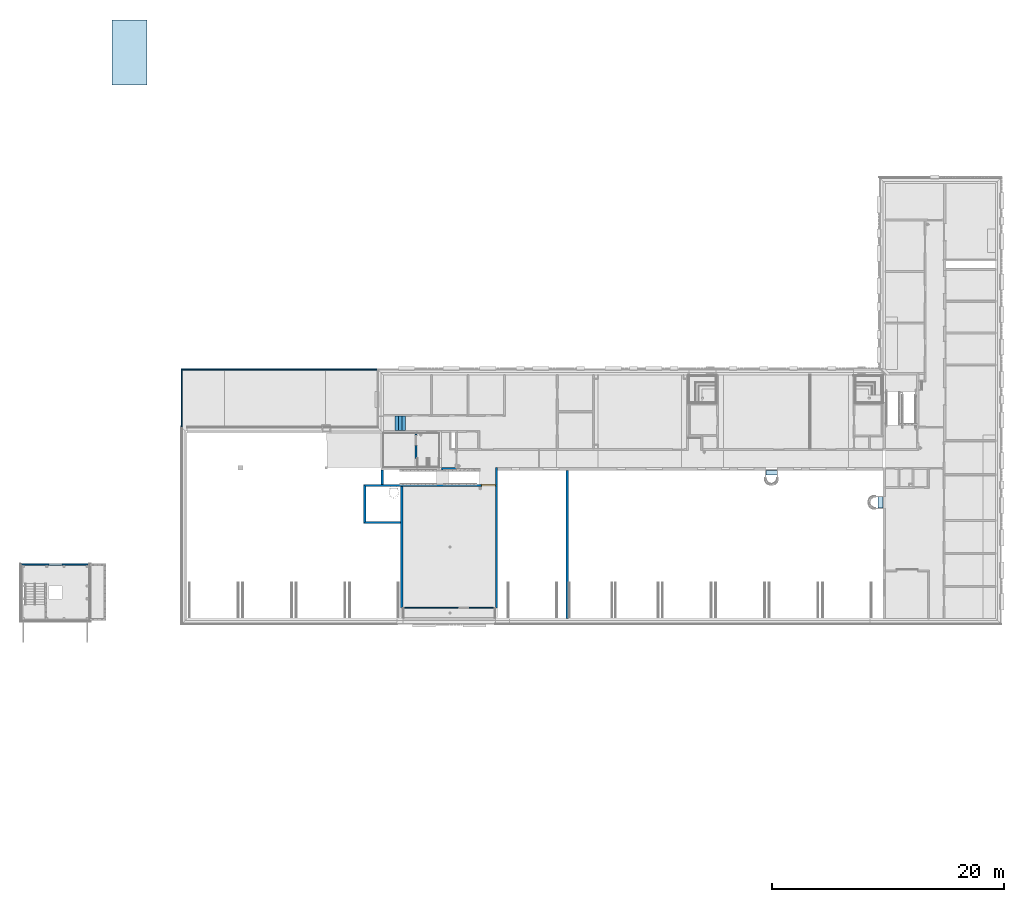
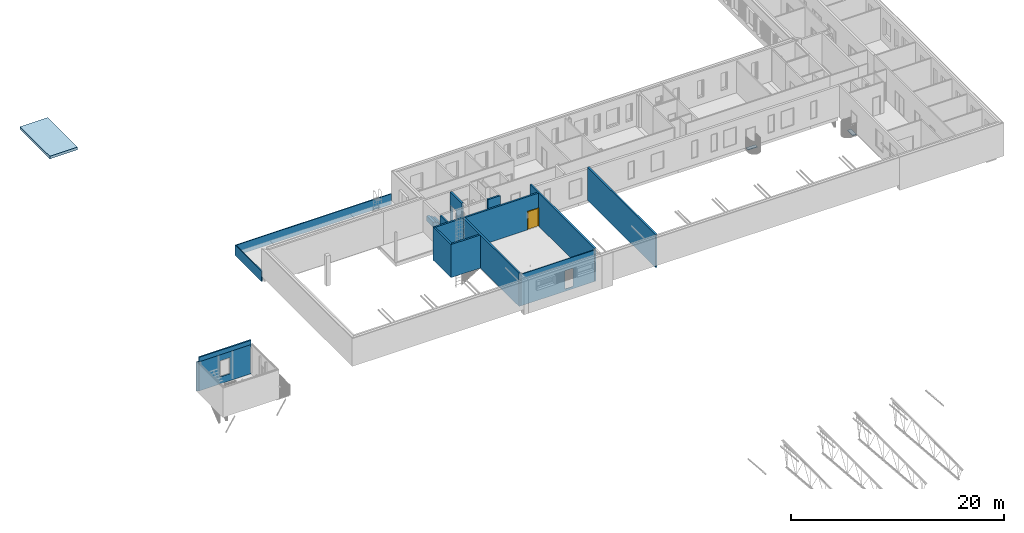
# One storey, part 3 of 100: 14 walls, 2 plates, 1 door, 1 member, 1 slab, 5 openings, 1 element without a shape of its own.
"""IFC2X3 building model written with IfcOpenShell, lengths in millimetres."""

from ifc_helpers import new_model, entity, si_unit, converted_unit, derived_unit, money_unit, direction, frame, origin_with_axes, origin_2d_with_axis, place, context, subcontext, project, spatial, polyline, rectangle, outline, extrude, faceted_brep, source, transform, mapped, material, layer, layer_set, layer_usage, type_object, element, fill, aggregate, save


model = new_model("IFC2X3")

# Units and contexts
model_context = context("Model", 3, precision=0.01, world=origin_with_axes(), true_north=direction((0.0, 1.0)))
body_context = subcontext(model_context, "Body", "Model", "MODEL_VIEW")
ifc_project = project(units=[si_unit("LENGTHUNIT", "METRE", prefix="MILLI"), si_unit("AREAUNIT", "SQUARE_METRE"), si_unit("VOLUMEUNIT", "CUBIC_METRE"), converted_unit("PLANEANGLEUNIT", "DEGREE", entity("IfcPlaneAngleMeasure", 0.0174532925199), si_unit("PLANEANGLEUNIT", "RADIAN"), dimensions=[0, 0, 0, 0, 0, 0, 0]), si_unit("SOLIDANGLEUNIT", "STERADIAN"), money_unit("EUR"), converted_unit("TIMEUNIT", "Year", entity("IfcTimeMeasure", 31556926.0), si_unit("TIMEUNIT", "SECOND"), dimensions=[0, 0, 1, 0, 0, 0, 0]), si_unit("MASSUNIT", "GRAM", prefix="KILO"), si_unit("THERMODYNAMICTEMPERATUREUNIT", "DEGREE_CELSIUS"), si_unit("LUMINOUSINTENSITYUNIT", "LUMEN"), si_unit("ENERGYUNIT", "JOULE", prefix="MEGA"), derived_unit("THERMALCONDUCTANCEUNIT", [(si_unit("POWERUNIT", "WATT"), 1), (si_unit("LENGTHUNIT", "METRE"), -1), (si_unit("THERMODYNAMICTEMPERATUREUNIT", "KELVIN"), -1)]), derived_unit("SPECIFICHEATCAPACITYUNIT", [(si_unit("ENERGYUNIT", "JOULE"), 1), (si_unit("MASSUNIT", "GRAM", prefix="KILO"), -1), (si_unit("THERMODYNAMICTEMPERATUREUNIT", "KELVIN"), -1)]), derived_unit("MASSDENSITYUNIT", [(si_unit("MASSUNIT", "GRAM", prefix="KILO"), 1), (si_unit("VOLUMEUNIT", "CUBIC_METRE"), -1)])], contexts=[model_context])

# Site, building, storey
site_placement = place(None, origin_with_axes())
site = spatial("IfcSite", under=ifc_project, at=site_placement, Name="Politse- ja Piirivalveameti ning Päästeameti ühishoone", CompositionType="ELEMENT")
building_placement = place(site_placement, origin_with_axes())
building = spatial("IfcBuilding", under=site, at=building_placement, Name="Politse- ja Piirivalveameti ning Päästeameti ühishoone", CompositionType="ELEMENT")
storey_placement = place(building_placement, frame((0.0, 0.0, 3800.0), z_axis=(0.0, 0.0, 1.0), x_axis=(1.0, 0.0, 0.0)))
storey = spatial("IfcBuildingStorey", under=building, at=storey_placement, Name="Teine korrus", CompositionType="ELEMENT", Elevation=3800.0)

# Stair, member
stair_placement = place(storey_placement, frame((18809.4885406, 16189.8176113, 0.0), z_axis=(0.0, 0.0, 1.0), x_axis=(-1.0, 0.0, 0.0)))
stair = element("IfcStair", 1, at=stair_placement, inside=storey, Name="TREPP 5", ShapeType="NOTDEFINED")
ifc_material_1 = material(Name="KON-04_Betoon - Konstuktsioon")
member_type = type_object("IfcMemberType", Name="IfcMember", PredefinedType="USERDEFINED")
member_placement = place(stair_placement, origin_with_axes())
member = element("IfcMember", 2, at=member_placement, type_object=member_type, material=ifc_material_1, Name="TREPP 04", ObjectType="Stair Structure", context=body_context, shape_type="Brep", body=[
    faceted_brep([(600.0, 0.0, 360.0), (300.0, 0.0, 360.0), (300.0, -1250.2068331, 360.0), (600.0, -1250.2068331, 360.0), (600.0, 0.0, 540.0), (900.0, 0.0, 540.0), (900.0, 0.0, 0.0), (0.0, 0.0, 0.0), (0.0, 0.0, 180.0), (300.0, 0.0, 180.0), (300.0, -1250.2068331, 180.0), (0.0, -1250.2068331, 0.0), (900.0, -1250.2068331, 0.0), (900.0, -1250.2068331, 540.0), (600.0, -1250.2068331, 540.0), (0.0, -1250.2068331, 180.0)], [[[0, 1, 2, 3]], [[0, 4, 5, 6, 7, 8, 9, 1]], [[10, 2, 1, 9]], [[11, 12, 13, 14, 3, 2, 10, 15]], [[3, 14, 4, 0]], [[13, 5, 4, 14]], [[5, 13, 12, 6]], [[12, 11, 7, 6]], [[15, 8, 7, 11]], [[9, 8, 15, 10]]]),
])
aggregate(stair, [member])

# Slab
ifc_layer_1 = layer(ifc_material_1, 300.0, ventilated="UNKNOWN")
ifc_layer_set_1 = layer_set([ifc_layer_1], Name="KL-61_Katuslagi lõhkeainehoidla")
ifc_layer_usage_1 = layer_usage(ifc_layer_set_1, "AXIS3", "NEGATIVE", 300.0)
slab_type = type_object("IfcSlabType", Name="KL-61_Katuslagi lõhkeainehoidla 300", PredefinedType="ROOF")
slab_placement = place(storey_placement, frame((-6464.49139249, 51578.0648668, -1700.0), z_axis=(0.0, 0.0, 1.0), x_axis=(1.0, 0.0, 0.0)))
element("IfcSlab", 3, at=slab_placement, inside=storey, type_object=slab_type, material=ifc_layer_usage_1, Name="KL-61", PredefinedType="ROOF", context=body_context, shape_type="SweptSolid", body=[
    extrude(outline(polyline([(0.0, 0.0), (0.0, -5600.0), (3000.0, -5600.0), (3000.0, 0.0), (0.0, 0.0)])), origin_with_axes(), (0.0, 0.0, 1.0), 300.0),
])

# Plates
ifc_material_2 = material(Name="Teras")
plate_type = type_object("IfcPlateType", Name="Teras 60", PredefinedType="NOTDEFINED")
plate_1_placement = place(storey_placement, frame((49862.2674355, 12379.6443675, 0.0), z_axis=(0.0, 0.0, 1.0), x_axis=(1.0, 0.0, 0.0)))
element("IfcPlate", 4, at=plate_1_placement, inside=storey, type_object=plate_type, material=ifc_material_2, Name="Seisuplatvorm", context=body_context, shape_type="SweptSolid", body=[
    extrude(outline(polyline([(0.0, 0.0), (1000.00152778, 0.0), (1000.00152778, 380.375493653), (0.0, 380.375493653), (0.0, 0.0)])), frame((0.0, 0.0, -60.0), z_axis=(0.0, 0.0, 1.0), x_axis=(1.0, 0.0, 0.0)), (0.0, 0.0, 1.0), 60.0),
])
plate_2_placement = place(storey_placement, frame((59540.4287558, 9503.62572753, 0.0), z_axis=(0.0, 0.0, 1.0), x_axis=(1.0, 0.0, 0.0)))
element("IfcPlate", 5, at=plate_2_placement, inside=storey, type_object=plate_type, material=ifc_material_2, Name="Seisuplatvorm", context=body_context, shape_type="SweptSolid", body=[
    extrude(outline(polyline([(0.0, 0.0), (430.123156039, 0.0), (430.123156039, 1000.00152778), (0.0, 1000.00152778), (0.0, 0.0)])), frame((0.0, 0.0, -60.0), z_axis=(0.0, 0.0, 1.0), x_axis=(1.0, 0.0, 0.0)), (0.0, 0.0, 1.0), 60.0),
])

# Wall
ifc_material_3 = material(Name="KON-05_Betoon Plokk - Konstuktsioon")
ifc_layer_2 = layer(ifc_material_3, 190.0, ventilated="UNKNOWN")
ifc_layer_set_2 = layer_set([ifc_layer_2], Name="SS-03_Sisesein 190")
ifc_layer_usage_2 = layer_usage(ifc_layer_set_2, "AXIS2", "POSITIVE", -190.0)
wall_type_1 = type_object("IfcWallType", Name="SS-03_Sisesein 190 190", PredefinedType="NOTDEFINED")
wall_1_placement = place(storey_placement, frame((16900.2858198, 12810.0198611, 0.0), z_axis=(0.0, 0.0, 1.0), x_axis=(0.0, -1.0, 0.0)))
element("IfcWallStandardCase", 6, at=wall_1_placement, inside=storey, type_object=wall_type_1, material=ifc_layer_usage_2, Name="SS-02", context=body_context, shape_type="SweptSolid", body=[
    extrude(outline(polyline([(0.0, -190.0), (1250.0, -190.0), (1250.0, 0.0), (5.0, 0.0), (0.0, -190.0)])), origin_with_axes(), (0.0, 0.0, 1.0), 3800.0),
])

# Wall, opening, door
ifc_layer_usage_3 = layer_usage(ifc_layer_set_2, "AXIS2", "POSITIVE", -190.0)
wall_2_placement = place(storey_placement, frame((15210.5476386, 11560.0198611, 0.0), z_axis=(0.0, 0.0, 1.0), x_axis=(1.0, 0.0, 0.0)))
wall_2 = element("IfcWallStandardCase", 7, at=wall_2_placement, inside=storey, type_object=wall_type_1, material=ifc_layer_usage_3, Name="SS-03", context=body_context, shape_type="SweptSolid", body=[
    extrude(outline(polyline([(190.0, -190.0), (11359.1532442, -190.0), (11359.1532442, 0.0), (0.0, 0.0), (190.0, -190.0)])), origin_with_axes(), (0.0, 0.0, 1.0), 3800.0),
])
opening_1_placement = place(wall_2_placement, frame((10759.1532442, 0.0, 0.0), z_axis=(0.0, 0.0, 1.0), x_axis=(1.0, 0.0, 0.0)))
opening_1 = element("IfcOpeningElement", 8, at=opening_1_placement, cuts=wall_2, Name="TU-01-5", context=body_context, shape_type="SweptSolid", body=[
    extrude(rectangle(XDim=1200.0, YDim=2100.0, at=origin_2d_with_axis()), frame((0.0, -190.0, 1050.0), z_axis=(0.0, 1.0, 0.0), x_axis=(-1.0, 0.0, 0.0)), (0.0, 0.0, 1.0), 570.0),
    extrude(rectangle(XDim=1274.0, YDim=2137.0, at=origin_2d_with_axis()), frame((0.0, -190.0, 1068.5), z_axis=(0.0, 1.0, 0.0), x_axis=(-1.0, 0.0, 0.0)), (0.0, 0.0, -1.0), 190.0),
    extrude(rectangle(XDim=1274.0, YDim=2137.0, at=origin_2d_with_axis()), frame((0.0, 0.0, 1068.5), z_axis=(0.0, -1.0, 0.0), x_axis=(-1.0, 0.0, 0.0)), (0.0, 0.0, -1.0), 190.0),
])
door_style = type_object("IfcDoorStyle", Name="Double Door Asymmetric 23", ConstructionType="NOTDEFINED", OperationType="DOUBLE_DOOR_SINGLE_SWING", ParameterTakesPrecedence=False, Sizeable=False)
shared_shape = source(origin_with_axes(), body_context, "Body", "Brep", [
    faceted_brep([(560.0, -115.0, 0.0), (560.0, -40.0, 0.0), (560.0, -40.0, 12.0), (560.0, -115.0, 12.0), (-560.0, -115.0, 0.0), (-560.0, -40.0, 0.0), (-572.0, -40.0, 0.0), (572.0, -40.0, 0.0), (572.0, -40.0, 12.0), (-572.0, -40.0, 12.0), (-560.0, -40.0, 12.0), (-560.0, -115.0, 12.0)], [[[0, 1, 2, 3]], [[0, 4, 5, 6, 7, 1]], [[1, 7, 8, 2]], [[3, 2, 8, 9, 10, 11]], [[4, 0, 3, 11]], [[5, 4, 11, 10]], [[6, 5, 10, 9]], [[7, 6, 9, 8]]]),
    faceted_brep([(-600.0, 0.0, 0.0), (-600.0, 75.0, 0.0), (-575.0, 75.0, 0.0), (-575.0, 0.0, 0.0), (-600.0, 0.0, 2100.0), (-600.0, 75.0, 2100.0), (-575.0, 75.0, 2075.0), (-575.0, 0.0, 2075.0)], [[[0, 1, 2, 3]], [[4, 5, 1, 0]], [[1, 5, 6, 2]], [[3, 2, 6, 7]], [[0, 3, 7, 4]], [[7, 6, 5, 4]]]),
    faceted_brep([(600.0, 0.0, 2100.0), (600.0, 75.0, 2100.0), (575.0, 75.0, 2075.0), (575.0, 0.0, 2075.0), (600.0, 0.0, 0.0), (600.0, 75.0, 0.0), (575.0, 75.0, 0.0), (575.0, 0.0, 0.0)], [[[0, 1, 2, 3]], [[4, 5, 1, 0]], [[1, 5, 6, 2]], [[3, 2, 6, 7]], [[0, 3, 7, 4]], [[7, 6, 5, 4]]]),
    faceted_brep([(-575.0, 0.0, 2075.0), (-575.0, 75.0, 2075.0), (575.0, 75.0, 2075.0), (575.0, 0.0, 2075.0), (-600.0, 0.0, 2100.0), (-600.0, 75.0, 2100.0), (600.0, 75.0, 2100.0), (600.0, 0.0, 2100.0)], [[[0, 1, 2, 3]], [[4, 5, 1, 0]], [[1, 5, 6, 2]], [[3, 2, 6, 7]], [[0, 3, 7, 4]], [[7, 6, 5, 4]]]),
    faceted_brep([(-637.0, 94.0, 0.0), (-587.0, 94.0, 0.0), (-587.0, 75.0, 0.0), (-637.0, 75.0, 0.0), (-637.0, 94.0, 2137.0), (-587.0, 94.0, 2087.0), (-587.0, 75.0, 2087.0), (-637.0, 75.0, 2137.0)], [[[0, 1, 2, 3]], [[0, 4, 5, 1]], [[1, 5, 6, 2]], [[3, 2, 6, 7]], [[4, 0, 3, 7]], [[5, 4, 7, 6]]]),
    faceted_brep([(637.0, 94.0, 2137.0), (587.0, 94.0, 2087.0), (587.0, 75.0, 2087.0), (637.0, 75.0, 2137.0), (637.0, 94.0, 0.0), (587.0, 94.0, 0.0), (587.0, 75.0, 0.0), (637.0, 75.0, 0.0)], [[[0, 1, 2, 3]], [[0, 4, 5, 1]], [[1, 5, 6, 2]], [[3, 2, 6, 7]], [[4, 0, 3, 7]], [[5, 4, 7, 6]]]),
    faceted_brep([(-637.0, 94.0, 2137.0), (-587.0, 94.0, 2087.0), (-587.0, 75.0, 2087.0), (-637.0, 75.0, 2137.0), (637.0, 94.0, 2137.0), (587.0, 94.0, 2087.0), (587.0, 75.0, 2087.0), (637.0, 75.0, 2137.0)], [[[0, 1, 2, 3]], [[0, 4, 5, 1]], [[1, 5, 6, 2]], [[3, 2, 6, 7]], [[4, 0, 3, 7]], [[5, 4, 7, 6]]]),
    faceted_brep([(-637.0, -134.0, 0.0), (-637.0, -115.0, 0.0), (-587.0, -115.0, 0.0), (-587.0, -134.0, 0.0), (-637.0, -134.0, 2137.0), (-637.0, -115.0, 2137.0), (-587.0, -115.0, 2087.0), (-587.0, -134.0, 2087.0)], [[[0, 1, 2, 3]], [[4, 5, 1, 0]], [[1, 5, 6, 2]], [[3, 2, 6, 7]], [[0, 3, 7, 4]], [[7, 6, 5, 4]]]),
    faceted_brep([(637.0, -134.0, 2137.0), (637.0, -115.0, 2137.0), (587.0, -115.0, 2087.0), (587.0, -134.0, 2087.0), (637.0, -134.0, 0.0), (637.0, -115.0, 0.0), (587.0, -115.0, 0.0), (587.0, -134.0, 0.0)], [[[0, 1, 2, 3]], [[4, 5, 1, 0]], [[1, 5, 6, 2]], [[3, 2, 6, 7]], [[0, 3, 7, 4]], [[7, 6, 5, 4]]]),
    faceted_brep([(-637.0, -134.0, 2137.0), (-637.0, -115.0, 2137.0), (-587.0, -115.0, 2087.0), (-587.0, -134.0, 2087.0), (637.0, -134.0, 2137.0), (637.0, -115.0, 2137.0), (587.0, -115.0, 2087.0), (587.0, -134.0, 2087.0)], [[[0, 1, 2, 3]], [[4, 5, 1, 0]], [[1, 5, 6, 2]], [[3, 2, 6, 7]], [[0, 3, 7, 4]], [[7, 6, 5, 4]]]),
    faceted_brep([(-560.0, -40.0, 0.0), (-560.0, -40.0, 2060.0), (-560.0, -115.0, 2060.0), (-560.0, -115.0, 0.0), (-572.0, -40.0, 2060.0), (-572.0, -40.0, 0.0), (-572.0, 0.0, 2060.0), (-600.0, 0.0, 2060.0), (-600.0, -115.0, 2060.0), (-600.0, -115.0, 0.0), (-600.0, 0.0, 0.0), (-572.0, 0.0, 0.0)], [[[0, 1, 2, 3]], [[4, 1, 0, 5]], [[4, 6, 7, 8, 2, 1]], [[3, 2, 8, 9]], [[5, 0, 3, 9, 10, 11]], [[6, 4, 5, 11]], [[6, 11, 10, 7]], [[10, 9, 8, 7]]]),
    faceted_brep([(572.0, -40.0, 2060.0), (560.0, -40.0, 2060.0), (560.0, -115.0, 2060.0), (600.0, -115.0, 2060.0), (600.0, 0.0, 2060.0), (572.0, 0.0, 2060.0), (572.0, -40.0, 0.0), (560.0, -40.0, 0.0), (560.0, -115.0, 0.0), (600.0, -115.0, 0.0), (600.0, 0.0, 0.0), (572.0, 0.0, 0.0)], [[[0, 1, 2, 3, 4, 5]], [[1, 0, 6, 7]], [[1, 7, 8, 2]], [[3, 2, 8, 9]], [[4, 3, 9, 10]], [[11, 5, 4, 10]], [[0, 5, 11, 6]], [[6, 11, 10, 9, 8, 7]]]),
    faceted_brep([(-572.0, 0.0, 2072.0), (-572.0, 0.0, 2060.0), (-600.0, 0.0, 2060.0), (-600.0, 0.0, 2100.0), (600.0, 0.0, 2100.0), (600.0, 0.0, 2060.0), (572.0, 0.0, 2060.0), (572.0, 0.0, 2072.0), (-572.0, -40.0, 2072.0), (-572.0, -40.0, 2060.0), (-560.0, -40.0, 2060.0), (-560.0, -115.0, 2060.0), (-600.0, -115.0, 2060.0), (-600.0, -115.0, 2100.0), (600.0, -115.0, 2100.0), (600.0, -115.0, 2060.0), (572.0, -40.0, 2060.0), (560.0, -115.0, 2060.0), (560.0, -40.0, 2060.0), (572.0, -40.0, 2072.0)], [[[0, 1, 2, 3, 4, 5, 6, 7]], [[1, 0, 8, 9]], [[9, 10, 11, 12, 2, 1]], [[2, 12, 13, 3]], [[3, 13, 14, 4]], [[4, 14, 15, 5]], [[16, 6, 5, 15, 17, 18]], [[7, 6, 16, 19]], [[0, 7, 19, 8]], [[16, 18, 10, 9, 8, 19]], [[10, 18, 17, 11]], [[17, 15, 14, 13, 12, 11]]]),
    faceted_brep([(572.0, 0.0, 0.0), (572.0, -40.0, 0.0), (272.0, -40.0, 0.0), (272.0, 0.0, 0.0), (572.0, 0.0, 2072.0), (572.0, -40.0, 2072.0), (272.0, -40.0, 2072.0), (272.0, 0.0, 2072.0)], [[[0, 1, 2, 3]], [[4, 5, 1, 0]], [[1, 5, 6, 2]], [[3, 2, 6, 7]], [[0, 3, 7, 4]], [[7, 6, 5, 4]]]),
    faceted_brep([(-572.0, 0.0, 0.0), (272.0, 0.0, 0.0), (272.0, -40.0, 0.0), (-572.0, -40.0, 0.0), (-572.0, 0.0, 2072.0), (272.0, 0.0, 2072.0), (272.0, -40.0, 2072.0), (-572.0, -40.0, 2072.0)], [[[0, 1, 2, 3]], [[0, 4, 5, 1]], [[1, 5, 6, 2]], [[3, 2, 6, 7]], [[4, 0, 3, 7]], [[5, 4, 7, 6]]]),
])
door_placement = place(opening_1_placement, frame((600.0, 0.0, 0.0), z_axis=(0.0, 0.0, 1.0), x_axis=(-1.0, 0.0, 0.0)))
door = element("IfcDoor", 9, at=door_placement, inside=storey, type_object=door_style, Name="TU-01-5", ObjectType="DOOR", OverallHeight=2100.0, OverallWidth=1200.0, context=body_context, shape_type="MappedRepresentation", body=[
    mapped(shared_shape, transform((600.0, 115.0, 0.0))),
])
fill(opening_1, door)

# Walls
ifc_layer_usage_4 = layer_usage(ifc_layer_set_2, "AXIS2", "NEGATIVE", 190.0)
wall_3_placement = place(storey_placement, frame((18400.0881112, 11560.0198611, 0.0), z_axis=(0.0, 0.0, 1.0), x_axis=(0.0, -1.0, 0.0)))
element("IfcWallStandardCase", 10, at=wall_3_placement, inside=storey, type_object=wall_type_1, material=ifc_layer_usage_4, Name="SS-03", context=body_context, shape_type="SweptSolid", body=[
    extrude(outline(polyline([(190.0, 0.0), (10660.2471087, 0.0), (10660.2471087, 190.0), (190.0, 190.0), (190.0, 0.0)])), origin_with_axes(), (0.0, 0.0, 1.0), 3800.0),
])
ifc_layer_usage_5 = layer_usage(ifc_layer_set_2, "AXIS2", "POSITIVE", -190.0)
wall_4_placement = place(storey_placement, frame((26759.7008828, 13000.0198611, 0.0), z_axis=(0.0, 0.0, 1.0), x_axis=(0.0, -1.0, 0.0)))
element("IfcWallStandardCase", 11, at=wall_4_placement, inside=storey, type_object=wall_type_1, material=ifc_layer_usage_5, Name="SS-03", context=body_context, shape_type="SweptSolid", body=[
    extrude(outline(polyline([(0.0, -190.0), (12100.2471087, -190.0), (12100.2471087, 0.0), (0.0, 0.0), (0.0, -190.0)])), origin_with_axes(), (0.0, 0.0, 1.0), 3800.0),
])
ifc_layer_usage_6 = layer_usage(ifc_layer_set_2, "AXIS2", "POSITIVE", -95.0)
wall_5_placement = place(storey_placement, frame((32759.7100495, 13000.0198611, 0.0), z_axis=(0.0, 0.0, 1.0), x_axis=(0.0, -1.0, 0.0)))
element("IfcWallStandardCase", 12, at=wall_5_placement, inside=storey, type_object=wall_type_1, material=ifc_layer_usage_6, Name="SS-03", context=body_context, shape_type="SweptSolid", body=[
    extrude(outline(polyline([(240.0, -95.0), (13000.0198611, -95.0), (13000.0198611, 95.0), (240.0, 95.0), (240.0, -95.0)])), origin_with_axes(), (0.0, 0.0, 1.0), 3800.0),
])

# Wall, opening
ifc_layer_usage_7 = layer_usage(ifc_layer_set_2, "AXIS2", "NEGATIVE", 0.0)
wall_6_placement = place(storey_placement, frame((19820.0260184, 15984.8176113, 0.0), z_axis=(0.0, 0.0, 1.0), x_axis=(0.0, -1.0, 0.0)))
wall_6 = element("IfcWallStandardCase", 13, at=wall_6_placement, inside=storey, type_object=wall_type_1, material=ifc_layer_usage_7, Name="SS-03", context=body_context, shape_type="SweptSolid", body=[
    extrude(outline(polyline([(0.0, -190.0), (2184.79775023, -190.0), (2184.79775023, 0.0), (0.0, 0.0), (0.0, -190.0)])), origin_with_axes(), (0.0, 0.0, 1.0), 3576.54246345),
])
opening_2_placement = place(wall_6_placement, frame((635.717927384, 0.0, 0.0), z_axis=(0.0, 0.0, 1.0), x_axis=(1.0, 0.0, 0.0)))
element("IfcOpeningElement", 14, at=opening_2_placement, cuts=wall_6, Name="SU-01-1", context=body_context, shape_type="SweptSolid", body=[
    extrude(rectangle(XDim=900.0, YDim=2100.0, at=origin_2d_with_axis()), frame((0.0, 190.0, 1050.0), z_axis=(0.0, -1.0, 0.0), x_axis=(-1.0, 0.0, 0.0)), (0.0, 0.0, 1.0), 570.0),
    extrude(rectangle(XDim=974.0, YDim=2137.0, at=origin_2d_with_axis()), frame((0.0, 0.0, 1068.5), z_axis=(0.0, -1.0, 0.0), x_axis=(-1.0, 0.0, 0.0)), (0.0, 0.0, -1.0), 190.0),
    extrude(rectangle(XDim=974.0, YDim=2137.0, at=origin_2d_with_axis()), frame((0.0, -190.0, 1068.5), z_axis=(0.0, 1.0, 0.0), x_axis=(-1.0, 0.0, 0.0)), (0.0, 0.0, -1.0), 190.0),
])

# Walls
ifc_layer_usage_8 = layer_usage(ifc_layer_set_2, "AXIS2", "POSITIVE", -190.0)
wall_7_placement = place(storey_placement, frame((21920.0260184, 13000.0198611, 0.0), z_axis=(0.0, 0.0, 1.0), x_axis=(0.999999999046, 4.36869472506e-05, 0.0)))
element("IfcWallStandardCase", 15, at=wall_7_placement, inside=storey, type_object=wall_type_1, material=ifc_layer_usage_8, Name="SS-03", context=body_context, shape_type="SweptSolid", body=[
    extrude(outline(polyline([(-0.0083005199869, -190.0), (1339.99170076, -190.0), (1200.00000115, 0.0), (5.00000000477, 0.0), (-0.0083005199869, -190.0)])), origin_with_axes(), (0.0, 0.0, 1.0), 3800.0),
])
ifc_layer_usage_9 = layer_usage(ifc_layer_set_2, "AXIS2", "NEGATIVE", 190.0)
wall_8_placement = place(storey_placement, frame((15210.5476386, 11560.0198611, 0.0), z_axis=(0.0, 0.0, 1.0), x_axis=(0.0, -1.0, 0.0)))
element("IfcWallStandardCase", 16, at=wall_8_placement, inside=storey, type_object=wall_type_1, material=ifc_layer_usage_9, Name="SS-03", context=body_context, shape_type="SweptSolid", body=[
    extrude(outline(polyline([(0.0, 0.0), (3380.0, 0.0), (3190.0, 190.0), (190.0, 190.0), (0.0, 0.0)])), origin_with_axes(), (0.0, 0.0, 1.0), 3800.0),
])
ifc_layer_usage_10 = layer_usage(ifc_layer_set_2, "AXIS2", "NEGATIVE", 190.0)
wall_9_placement = place(storey_placement, frame((15210.5476386, 8180.01986111, 0.0), z_axis=(0.0, 0.0, 1.0), x_axis=(1.0, 0.0, 0.0)))
element("IfcWallStandardCase", 17, at=wall_9_placement, inside=storey, type_object=wall_type_1, material=ifc_layer_usage_10, Name="SS-03", context=body_context, shape_type="SweptSolid", body=[
    extrude(outline(polyline([(0.0, 0.0), (3189.54047256, 0.0), (3189.54047256, 190.0), (190.0, 190.0), (0.0, 0.0)])), origin_with_axes(), (0.0, 0.0, 1.0), 3800.0),
])

# Wall, opening
ifc_material_4 = material(Name="Betoon")
ifc_layer_3 = layer(ifc_material_4, 150.0, ventilated="UNKNOWN")
ifc_layer_set_3 = layer_set([ifc_layer_3], Name="VS-21_Välissein jarjutustorn 150mm")
ifc_layer_usage_11 = layer_usage(ifc_layer_set_3, "AXIS2", "NEGATIVE", 150.0)
wall_type_2 = type_object("IfcWallType", Name="VS-21_Välissein jarjutustorn 150mm 150", PredefinedType="NOTDEFINED")
wall_10_placement = place(storey_placement, frame((-14182.0, 4575.4616888, -499.999987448), z_axis=(0.0, 0.0, 1.0), x_axis=(1.0, 0.0, 0.0)))
wall_10 = element("IfcWallStandardCase", 18, at=wall_10_placement, inside=storey, type_object=wall_type_2, material=ifc_layer_usage_11, Name="VS-21", context=body_context, shape_type="SweptSolid", body=[
    extrude(outline(polyline([(0.0, 0.0), (5650.0, 0.0), (5650.0, 150.0), (-225.0, 150.0), (0.0, 0.0)])), origin_with_axes(), (0.0, 0.0, 1.0), 3346.99998745),
])
opening_3_placement = place(wall_10_placement, frame((2824.96730436, 0.0, 799.999987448), z_axis=(0.0, 0.0, 1.0), x_axis=(1.0, 0.0, 0.0)))
element("IfcOpeningElement", 19, at=opening_3_placement, cuts=wall_10, Name="LU-21", context=body_context, shape_type="SweptSolid", body=[
    extrude(rectangle(XDim=1100.0, YDim=1850.0, at=origin_2d_with_axis()), frame((0.0, -150.0, 925.0), z_axis=(0.0, -1.0, 0.0), x_axis=(-1.0, 0.0, 0.0)), (0.0, 0.0, -1.0), 450.0),
    extrude(rectangle(XDim=1174.0, YDim=1887.0, at=origin_2d_with_axis()), frame((0.0, 0.0, 943.5), z_axis=(0.0, -1.0, 0.0), x_axis=(-1.0, 0.0, 0.0)), (0.0, 0.0, 1.0), 150.0),
    extrude(rectangle(XDim=1174.0, YDim=1887.0, at=origin_2d_with_axis()), frame((0.0, 150.0, 943.5), z_axis=(0.0, 1.0, 0.0), x_axis=(-1.0, 0.0, 0.0)), (0.0, 0.0, 1.0), 150.0),
])

ifc_layer_usage_12 = layer_usage(ifc_layer_set_3, "AXIS2", "NEGATIVE", 150.0)
wall_11_placement = place(storey_placement, frame((-14182.0, 4575.4616888, 2847.0), z_axis=(0.0, 0.0, 1.0), x_axis=(1.0, 0.0, 0.0)))
wall_11 = element("IfcWallStandardCase", 20, at=wall_11_placement, inside=storey, type_object=wall_type_2, material=ifc_layer_usage_12, Name="VS-21", context=body_context, shape_type="SweptSolid", body=[
    extrude(outline(polyline([(0.0, 0.0), (5650.0, 0.0), (5650.0, 150.0), (0.0, 150.0), (0.0, 0.0)])), origin_with_axes(), (0.0, 0.0, 1.0), 503.0),
])
opening_4_placement = place(wall_11_placement, frame((2824.96730436, 0.0, -2546.99998745), z_axis=(0.0, 0.0, 1.0), x_axis=(1.0, 0.0, 0.0)))
element("IfcOpeningElement", 21, at=opening_4_placement, cuts=wall_11, Name="TÜHI SEINAAVA", context=body_context, shape_type="SweptSolid", body=[
    extrude(rectangle(XDim=1100.0, YDim=1850.0, at=origin_2d_with_axis()), frame((0.0, -150.0, 925.0), z_axis=(0.0, -1.0, 0.0), x_axis=(1.0, 0.0, 0.0)), (0.0, 0.0, -1.0), 450.0),
])

ifc_material_5 = material(Name="SOJ-02_Soojustus - Fiiber Kõva")
ifc_layer_4 = layer(ifc_material_5, 80.0, ventilated="UNKNOWN")
ifc_layer_set_4 = layer_set([ifc_layer_4], Name="SS-10_Sisesein SW-paneel 80")
ifc_layer_usage_13 = layer_usage(ifc_layer_set_4, "AXIS2", "POSITIVE", 0.0)
wall_type_3 = type_object("IfcWallType", Name="SS-10_Sisesein SW-paneel 80 80", PredefinedType="NOTDEFINED")
wall_12_placement = place(storey_placement, frame((18590.0881112, 899.772752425, 0.0), z_axis=(0.0, 0.0, 1.0), x_axis=(1.0, 0.0, 0.0)))
wall_12 = element("IfcWallStandardCase", 22, at=wall_12_placement, inside=storey, type_object=wall_type_3, material=ifc_layer_usage_13, Name="SS-10", context=body_context, shape_type="SweptSolid", body=[
    extrude(outline(polyline([(0.0, 0.0), (7979.61277161, 0.0), (7979.61277161, 80.0), (0.0, 80.0), (0.0, 0.0)])), origin_with_axes(), (0.0, 0.0, 1.0), 3620.0),
])
opening_5_placement = place(wall_12_placement, frame((5229.9118888, 0.0, 247.000055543), z_axis=(0.0, 0.0, 1.0), x_axis=(1.0, 0.0, 0.0)))
element("IfcOpeningElement", 23, at=opening_5_placement, cuts=wall_12, Name="SU-01-7", context=body_context, shape_type="SweptSolid", body=[
    extrude(rectangle(XDim=900.0, YDim=2100.0, at=origin_2d_with_axis()), frame((0.0, -80.0, 1050.0), z_axis=(0.0, 1.0, 0.0), x_axis=(1.0, 0.0, 0.0)), (0.0, 0.0, 1.0), 240.0),
    extrude(rectangle(XDim=974.0, YDim=2137.0, at=origin_2d_with_axis()), frame((0.0, 0.0, 1068.5), z_axis=(0.0, 1.0, 0.0), x_axis=(1.0, 0.0, 0.0)), (0.0, 0.0, -1.0), 80.0),
    extrude(rectangle(XDim=974.0, YDim=2137.0, at=origin_2d_with_axis()), frame((0.0, 80.0, 1068.5), z_axis=(0.0, -1.0, 0.0), x_axis=(1.0, 0.0, 0.0)), (0.0, 0.0, -1.0), 80.0),
])

# Walls
ifc_layer_5 = layer(ifc_material_1, 100.0, ventilated="UNKNOWN")
ifc_layer_set_5 = layer_set([ifc_layer_5], Name="VS-08_välissein parapett")
ifc_layer_usage_14 = layer_usage(ifc_layer_set_5, "AXIS2", "NEGATIVE", 100.0)
wall_type_4 = type_object("IfcWallType", Name="VS-08_välissein parapett 100", PredefinedType="NOTDEFINED")
wall_13_placement = place(storey_placement, frame((-410.0, 21409.9520832, 0.0), z_axis=(0.0, 0.0, 1.0), x_axis=(1.0, 0.0, 0.0)))
element("IfcWallStandardCase", 24, at=wall_13_placement, inside=storey, type_object=wall_type_4, material=ifc_layer_usage_14, Name="VS-08", context=body_context, shape_type="SweptSolid", body=[
    extrude(outline(polyline([(0.0, 0.0), (16800.0390064, 0.0), (16800.0390064, 100.0), (-100.0, 100.0), (0.0, 0.0)])), origin_with_axes(), (0.0, 0.0, 1.0), 1199.88112064),
])
ifc_layer_usage_15 = layer_usage(ifc_layer_set_5, "AXIS2", "NEGATIVE", 100.0)
wall_14_placement = place(storey_placement, frame((-410.0, 16510.0244444, 0.0), z_axis=(0.0, 0.0, 1.0), x_axis=(0.0, 1.0, 0.0)))
element("IfcWallStandardCase", 25, at=wall_14_placement, inside=storey, type_object=wall_type_4, material=ifc_layer_usage_15, Name="VS-08", context=body_context, shape_type="SweptSolid", body=[
    extrude(outline(polyline([(0.0, 0.0), (4899.92763877, 0.0), (4999.92763877, 100.0), (0.0, 100.0), (0.0, 0.0)])), origin_with_axes(), (0.0, 0.0, 1.0), 1199.88112064),
])

save(model, "model.ifc")
